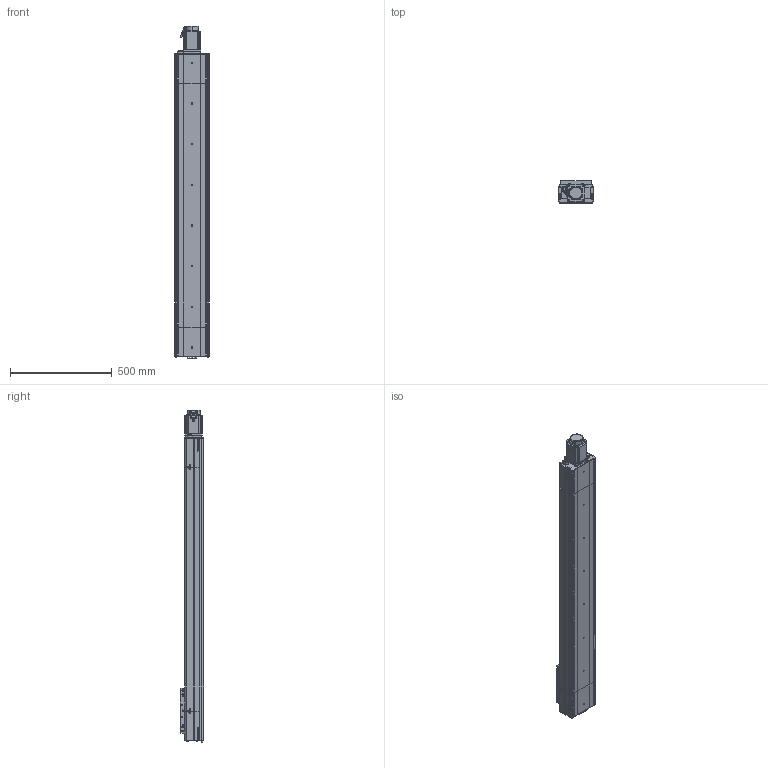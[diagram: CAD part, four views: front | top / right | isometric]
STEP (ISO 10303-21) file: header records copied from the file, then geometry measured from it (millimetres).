
FILE_DESCRIPTION (( 'STEP AP214' ), '1' );
FILE_NAME ('D17 CSH MD S1200.STEP', '2010-06-29T14:33:50', ( 'Christophe Gaillard' ), ( 'SGA' ), 'SwSTEP 2.0', 'SolidWorks 2010', '' );
FILE_SCHEMA (( 'AUTOMOTIVE_DESIGN' ));
Length unit declared in the file: millimetre
Products named in the file (25): Conecteur2_Default; Tail D17_Default; corps 90BLDC100A-640; Chariot D17_Default; Conecteur_Default; Corp L1200_Default; Corp D17 S1200_Default; Corp Tail D17_Default; couvercle D17-1200_Default; plaque de serrage D17_Default; couvercle D17_Default; glissiere_Default; Plaque de bout D17_Default; support chariot D17_Default; chariot D17_Default; vis M5 L15_Default; Head D17 MD_Default; couvercle D17 head_Default; Corp Head D17 MD_Default; plaque de serrage D17 head_Default; D17 CSH MD S1200; codeur 90BLDC100-640; Plaque de bout D17 head_Default; avant 90BLDC100A-640; Moteur motionking 90BLDC100A-640
Assembly tree (44 placements, depth 4):
  D17 CSH MD S1200
    Tail D17_Default
      vis M5 L15_Default  x6
      plaque de serrage D17_Default
      Plaque de bout D17_Default
      Corp Tail D17_Default
      couvercle D17_Default
    Corp D17 S1200_Default
      couvercle D17-1200_Default
      Corp L1200_Default
    Head D17 MD_Default
      Moteur motionking 90BLDC100A-640
        Conecteur_Default
        avant 90BLDC100A-640
        corps 90BLDC100A-640
        codeur 90BLDC100-640
        Conecteur2_Default
      vis M5 L15_Default  x7
      couvercle D17 head_Default
      plaque de serrage D17 head_Default
      Corp Head D17 MD_Default
      Plaque de bout D17 head_Default
    Chariot D17_Default
      vis M5 L15_Default  x8
      glissiere_Default
      support chariot D17_Default
      chariot D17_Default
Bounding box: 172 x 114 x 1633 mm (x, y, z)
Volume: 10459491.3 mm3; surface area: 1835057.9 mm2
Topology: 81 solids, 81 shells, 2998 faces, 7610 edges, 4992 vertices
Faces by surface type: plane 1815, bspline 710, cylinder 378, torus 53, cone 42
Entity records: 144429 total; most frequent: CARTESIAN_POINT 78566, ORIENTED_EDGE 13216, DIRECTION 9436, EDGE_CURVE 6608, VECTOR 4480, LINE 4480, VERTEX_POINT 4392, EDGE_LOOP 2780
